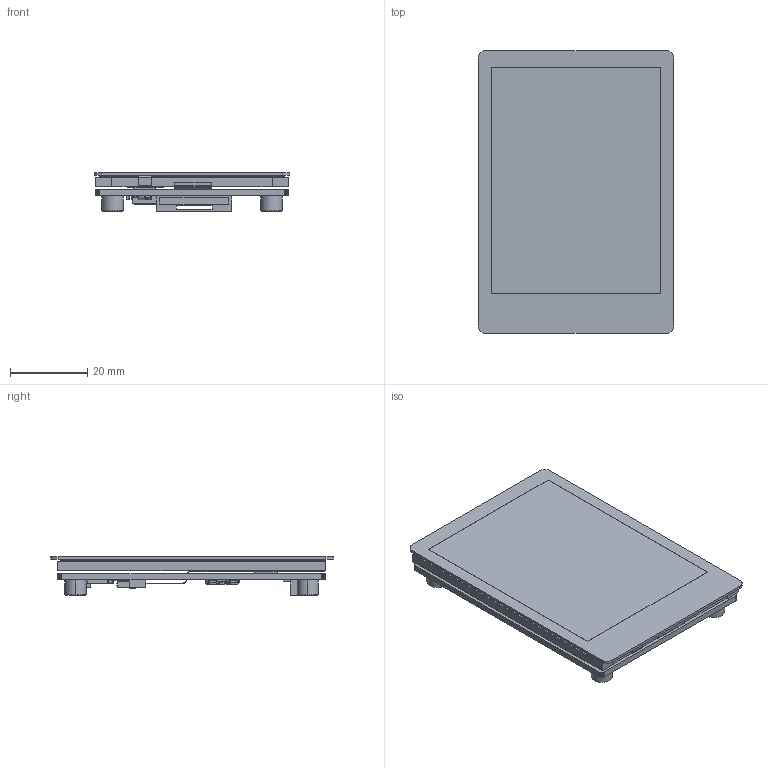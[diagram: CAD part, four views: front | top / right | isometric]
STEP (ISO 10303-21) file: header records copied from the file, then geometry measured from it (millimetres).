
FILE_DESCRIPTION((''),'2;1');
FILE_NAME('2_8INCH-CAPACITIVE-TOUCH-LCD_ASM','2024-07-26T14:59:11',('xiaojisheng'),(''),'CREO PARAMETRIC BY PTC INC, 2021063','CREO PARAMETRIC BY PTC INC, 2021063','');
FILE_SCHEMA(('CONFIG_CONTROL_DESIGN','SHAPE_APPEARANCE_LAYERS_GROUPS'));
Products named in the file (65): 2_8INCH-240X320-TP; 2_8INCH-240X320-LCD; BOARD; _2_1_2_3_4_AF0; _7_1_2_AF0; 5_1_2_3_400; R_0603-3601_AF0_ASM_ASM; R_0603-3615_AF0_ASM_ASM; R0603_ASM; R__ASM; SOT-23; T1_ASM; R20_ASM; R19_ASM; R18_ASM; R17_ASM; R16_ASM; R9_ASM; R8_ASM; R7_ASM; R6_ASM; R1_ASM; SOT23-5AND6__100; SOT23-6-7933_AF0; SOT23-6-13550_AF0_ASM_ASM; SOT23-6_ASM; M1_ASM; 2_1_200; _1_1_20001; 3_1_2_A; C_0603-683_AF0_ASM_ASM; C_0603-7177_AF0_ASM_ASM; C_0603_ASM; C9_ASM; SOT23-5AND6_00; SOT23-5-14065_AF0; SOT23-5-14113_AF0_ASM_ASM; SOT23-5-2_ASM; U1_ASM; R22_ASM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
Assembly tree (111 placements, depth 8):
  2_8INCH-CAPACITIVE-TOUCH-LCD_ASM
    2_8INCH-240X320-TP
    2_8INCH-240X320-LCD
    2_8INCH_CAPACITIVE_T_LCD-PCBA_ASM
      PCB_ASM
        BOARD
        R__ASM
          R0603_ASM
            R_0603-3615_AF0_ASM_ASM
              R_0603-3601_AF0_ASM_ASM
                _2_1_2_3_4_AF0
                _7_1_2_AF0
                5_1_2_3_400
        T1_ASM
          SOT-23
        R20_ASM
          R0603_ASM
            R_0603-3615_AF0_ASM_ASM
              R_0603-3601_AF0_ASM_ASM
                _2_1_2_3_4_AF0
                _7_1_2_AF0
                5_1_2_3_400
        R19_ASM
          R0603_ASM
            R_0603-3615_AF0_ASM_ASM
              R_0603-3601_AF0_ASM_ASM
                _2_1_2_3_4_AF0
                _7_1_2_AF0
                5_1_2_3_400
        R18_ASM
          R0603_ASM
            R_0603-3615_AF0_ASM_ASM
              R_0603-3601_AF0_ASM_ASM
                _2_1_2_3_4_AF0
                _7_1_2_AF0
                5_1_2_3_400
        R17_ASM
          R0603_ASM
            R_0603-3615_AF0_ASM_ASM
              R_0603-3601_AF0_ASM_ASM
                _2_1_2_3_4_AF0
                _7_1_2_AF0
                5_1_2_3_400
        R16_ASM
          R0603_ASM
            R_0603-3615_AF0_ASM_ASM
              R_0603-3601_AF0_ASM_ASM
                _2_1_2_3_4_AF0
                _7_1_2_AF0
                5_1_2_3_400
        R9_ASM
          R0603_ASM
            R_0603-3615_AF0_ASM_ASM
              R_0603-3601_AF0_ASM_ASM
                _2_1_2_3_4_AF0
                _7_1_2_AF0
                5_1_2_3_400
        R8_ASM
          R0603_ASM
            R_0603-3615_AF0_ASM_ASM
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Bounding box: 50.54 x 73.06 x 10 mm (x, y, z)
Volume: 17699.8 mm3; surface area: 27094.9 mm2
Topology: 122 solids, 122 shells, 14256 faces, 38149 edges, 25028 vertices
Faces by surface type: plane 10109, extrusion 2914, cylinder 958, sphere 127, torus 88, bspline 36, cone 24
Entity records: 169080 total; most frequent: CARTESIAN_POINT 41368, ORIENTED_EDGE 19740, DIRECTION 16041, PRESENTATION_STYLE_ASSIGNMENT 10759, EDGE_CURVE 9870, STYLED_ITEM 9802, CURVE_STYLE 9782, VECTOR 8571
